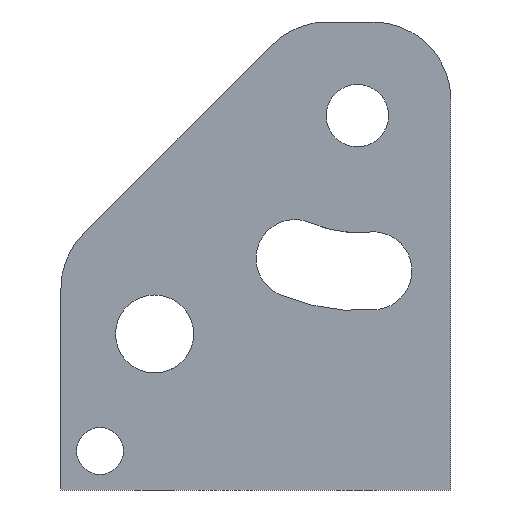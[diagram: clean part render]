
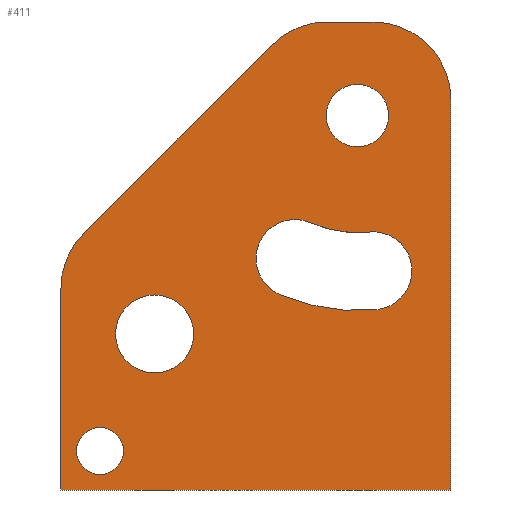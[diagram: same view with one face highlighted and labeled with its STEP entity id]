
A CAD part, left-side view. The second image highlights one B-rep face of the part: STEP entity #411.
In plain terms, the highlighted planar face has unit normal (-1, 0, 0).
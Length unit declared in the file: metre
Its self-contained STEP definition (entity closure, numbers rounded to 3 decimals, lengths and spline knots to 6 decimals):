
#35=CIRCLE('',#444,0.005);
#39=CIRCLE('',#451,0.005);
#42=CIRCLE('',#455,0.015);
#44=CIRCLE('',#458,0.005);
#45=CIRCLE('',#460,0.004);
#47=CIRCLE('',#463,0.025);
#48=CIRCLE('',#466,0.003);
#49=CIRCLE('',#467,0.01);
#50=CIRCLE('',#468,0.01);
#51=CIRCLE('',#469,0.01);
#116=ORIENTED_EDGE('',*,*,#213,.F.);
#117=ORIENTED_EDGE('',*,*,#199,.T.);
#118=ORIENTED_EDGE('',*,*,#209,.T.);
#119=ORIENTED_EDGE('',*,*,#206,.T.);
#120=ORIENTED_EDGE('',*,*,#203,.F.);
#121=ORIENTED_EDGE('',*,*,#185,.T.);
#122=ORIENTED_EDGE('',*,*,#207,.T.);
#123=ORIENTED_EDGE('',*,*,#171,.F.);
#124=ORIENTED_EDGE('',*,*,#214,.T.);
#125=ORIENTED_EDGE('',*,*,#210,.F.);
#126=ORIENTED_EDGE('',*,*,#215,.T.);
#127=ORIENTED_EDGE('',*,*,#176,.T.);
#128=ORIENTED_EDGE('',*,*,#216,.T.);
#129=ORIENTED_EDGE('',*,*,#195,.T.);
#130=ORIENTED_EDGE('',*,*,#189,.F.);
#171=EDGE_CURVE('',#226,#227,#266,.T.);
#176=EDGE_CURVE('',#232,#231,#271,.T.);
#185=EDGE_CURVE('',#238,#238,#35,.T.);
#189=EDGE_CURVE('',#227,#242,#276,.T.);
#195=EDGE_CURVE('',#245,#242,#280,.T.);
#199=EDGE_CURVE('',#247,#250,#39,.T.);
#203=EDGE_CURVE('',#247,#251,#42,.T.);
#206=EDGE_CURVE('',#253,#251,#44,.T.);
#207=EDGE_CURVE('',#255,#255,#45,.T.);
#209=EDGE_CURVE('',#250,#253,#47,.T.);
#210=EDGE_CURVE('',#256,#257,#285,.T.);
#213=EDGE_CURVE('',#258,#258,#48,.T.);
#214=EDGE_CURVE('',#226,#257,#49,.F.);
#215=EDGE_CURVE('',#256,#232,#50,.F.);
#216=EDGE_CURVE('',#231,#245,#51,.F.);
#226=VERTEX_POINT('',#623);
#227=VERTEX_POINT('',#625);
#231=VERTEX_POINT('',#634);
#232=VERTEX_POINT('',#636);
#238=VERTEX_POINT('',#653);
#242=VERTEX_POINT('',#678);
#245=VERTEX_POINT('',#686);
#247=VERTEX_POINT('',#692);
#250=VERTEX_POINT('',#697);
#251=VERTEX_POINT('',#701);
#253=VERTEX_POINT('',#708);
#255=VERTEX_POINT('',#714);
#256=VERTEX_POINT('',#720);
#257=VERTEX_POINT('',#721);
#258=VERTEX_POINT('',#726);
#266=LINE('',#624,#292);
#271=LINE('',#635,#297);
#276=LINE('',#677,#302);
#280=LINE('',#689,#306);
#285=LINE('',#719,#311);
#292=VECTOR('',#493,1.);
#297=VECTOR('',#500,1.);
#302=VECTOR('',#523,1.);
#306=VECTOR('',#533,1.);
#311=VECTOR('',#570,1.);
#332=EDGE_LOOP('',(#116));
#333=EDGE_LOOP('',(#117,#118,#119,#120));
#334=EDGE_LOOP('',(#121));
#335=EDGE_LOOP('',(#122));
#336=EDGE_LOOP('',(#123,#124,#125,#126,#127,#128,#129,#130));
#370=FACE_BOUND('',#332,.T.);
#371=FACE_BOUND('',#333,.T.);
#372=FACE_BOUND('',#334,.T.);
#373=FACE_BOUND('',#335,.T.);
#374=FACE_BOUND('',#336,.T.);
#397=PLANE('',#465);
#411=ADVANCED_FACE('',(#370,#371,#372,#373,#374),#397,.F.);
#444=AXIS2_PLACEMENT_3D('',#652,#518,#519);
#451=AXIS2_PLACEMENT_3D('',#698,#540,#541);
#455=AXIS2_PLACEMENT_3D('',#705,#549,#550);
#458=AXIS2_PLACEMENT_3D('',#711,#556,#557);
#460=AXIS2_PLACEMENT_3D('',#713,#560,#561);
#463=AXIS2_PLACEMENT_3D('',#717,#566,#567);
#465=AXIS2_PLACEMENT_3D('',#724,#573,#574);
#466=AXIS2_PLACEMENT_3D('',#725,#575,#576);
#467=AXIS2_PLACEMENT_3D('',#727,#577,#578);
#468=AXIS2_PLACEMENT_3D('',#728,#579,#580);
#469=AXIS2_PLACEMENT_3D('',#729,#581,#582);
#493=DIRECTION('',(0.,0.,-1.));
#500=DIRECTION('',(0.,0.707,-0.707));
#518=DIRECTION('',(1.,0.,0.));
#519=DIRECTION('',(0.,0.,-1.));
#523=DIRECTION('',(0.,1.,0.));
#533=DIRECTION('',(0.,0.,-1.));
#540=DIRECTION('',(1.,0.,0.));
#541=DIRECTION('',(0.,0.,-1.));
#549=DIRECTION('',(1.,0.,0.));
#550=DIRECTION('',(0.,0.,-1.));
#556=DIRECTION('',(1.,0.,0.));
#557=DIRECTION('',(0.,0.,-1.));
#560=DIRECTION('',(1.,0.,0.));
#561=DIRECTION('',(0.,0.,-1.));
#566=DIRECTION('',(1.,0.,0.));
#567=DIRECTION('',(0.,0.,-1.));
#570=DIRECTION('',(0.,-1.,0.));
#573=DIRECTION('',(1.,0.,0.));
#574=DIRECTION('',(0.,1.,0.));
#575=DIRECTION('',(-1.,0.,0.));
#576=DIRECTION('',(0.,0.,1.));
#577=DIRECTION('',(1.,0.,0.));
#578=DIRECTION('',(0.,0.,-1.));
#579=DIRECTION('',(1.,0.,0.));
#580=DIRECTION('',(0.,0.,-1.));
#581=DIRECTION('',(1.,0.,0.));
#582=DIRECTION('',(0.,0.,-1.));
#623=CARTESIAN_POINT('',(-0.03,-0.014,0.06));
#624=CARTESIAN_POINT('',(-0.03,-0.014,0.04));
#625=CARTESIAN_POINT('',(-0.03,-0.014,0.01));
#634=CARTESIAN_POINT('',(-0.03,0.033071,0.042929));
#635=CARTESIAN_POINT('',(-0.03,0.021,0.055));
#636=CARTESIAN_POINT('',(-0.03,0.008929,0.067071));
#652=CARTESIAN_POINT('',(-0.03,0.024,0.03));
#653=CARTESIAN_POINT('',(-0.03,0.024,0.025));
#677=CARTESIAN_POINT('',(-0.03,0.011,0.01));
#678=CARTESIAN_POINT('',(-0.03,0.036,0.01));
#686=CARTESIAN_POINT('',(-0.03,0.036,0.035858));
#689=CARTESIAN_POINT('',(-0.03,0.036,0.025));
#692=CARTESIAN_POINT('',(-0.03,-0.0035,0.043075));
#697=CARTESIAN_POINT('',(-0.03,-0.0045,0.033125));
#698=CARTESIAN_POINT('',(-0.03,-0.004,0.0381));
#701=CARTESIAN_POINT('',(-0.03,0.004,0.044252));
#705=CARTESIAN_POINT('',(-0.03,-0.002,0.058));
#708=CARTESIAN_POINT('',(-0.03,0.008,0.035087));
#711=CARTESIAN_POINT('',(-0.03,0.006,0.03967));
#713=CARTESIAN_POINT('',(-0.03,-0.002,0.058));
#714=CARTESIAN_POINT('',(-0.03,-0.002,0.054));
#717=CARTESIAN_POINT('',(-0.03,-0.002,0.058));
#719=CARTESIAN_POINT('',(-0.03,-0.004,0.07));
#720=CARTESIAN_POINT('',(-0.03,0.001858,0.07));
#721=CARTESIAN_POINT('',(-0.03,-0.004,0.07));
#724=CARTESIAN_POINT('',(-0.03,0.011,0.04));
#725=CARTESIAN_POINT('',(-0.03,0.031,0.015));
#726=CARTESIAN_POINT('',(-0.03,0.031,0.018));
#727=CARTESIAN_POINT('',(-0.03,-0.004,0.06));
#728=CARTESIAN_POINT('',(-0.03,0.001858,0.06));
#729=CARTESIAN_POINT('',(-0.03,0.026,0.035858));
